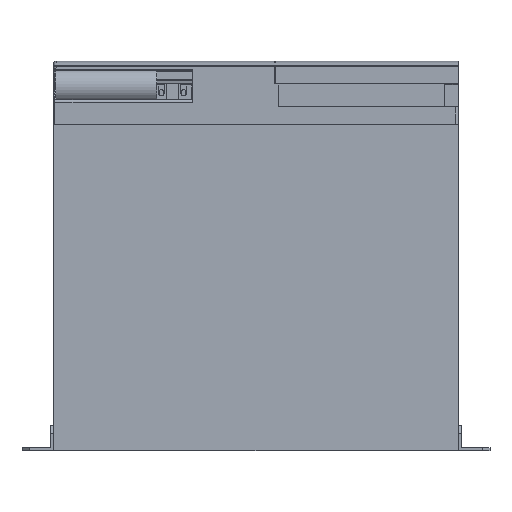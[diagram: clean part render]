
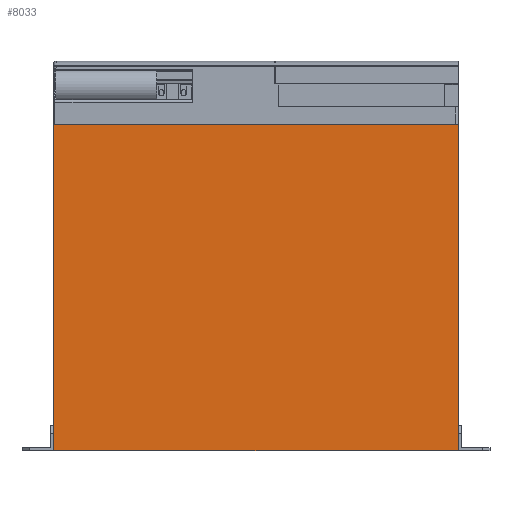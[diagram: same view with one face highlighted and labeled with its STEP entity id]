
A CAD part, left-side view. The second image highlights one B-rep face of the part: STEP entity #8033.
In plain terms, the highlighted planar face has unit normal (-1, 0, 0).
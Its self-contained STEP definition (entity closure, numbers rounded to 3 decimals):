
#8033=ADVANCED_FACE('',(#14568),#14567,.F.);
#14567=PLANE('',#51581);
#14568=FACE_OUTER_BOUND('',#51582,.T.);
#51578=CARTESIAN_POINT('',(-55.,-10.,-11.));
#51579=DIRECTION('',(1.,0.,0.));
#51580=DIRECTION('',(0.,0.,-1.));
#51581=AXIS2_PLACEMENT_3D('',#51578,#51579,#51580);
#51582=EDGE_LOOP('',(#71392,#71393,#71394,#71395));
#71392=ORIENTED_EDGE('',*,*,#91408,.T.);
#71393=ORIENTED_EDGE('',*,*,#91411,.F.);
#71394=ORIENTED_EDGE('',*,*,#91409,.F.);
#71395=ORIENTED_EDGE('',*,*,#91389,.T.);
#91389=EDGE_CURVE('',#104698,#104691,#104699,.T.);
#91408=EDGE_CURVE('',#104691,#104815,#104822,.T.);
#91409=EDGE_CURVE('',#104698,#104828,#104829,.T.);
#91411=EDGE_CURVE('',#104828,#104815,#104841,.T.);
#104691=VERTEX_POINT('',#173107);
#104698=VERTEX_POINT('',#173111);
#104699=LINE('',#173112,#173113);
#104815=VERTEX_POINT('',#173174);
#104822=LINE('',#173178,#173179);
#104828=VERTEX_POINT('',#173181);
#104829=LINE('',#173182,#173183);
#104841=LINE('',#173188,#173189);
#173107=CARTESIAN_POINT('',(-55.,160.,-150.));
#173111=CARTESIAN_POINT('',(-55.,160.,-21.));
#173112=CARTESIAN_POINT('',(-55.,160.,-21.));
#173113=VECTOR('',#173114,129.);
#173114=DIRECTION('',(0.,0.,-1.));
#173174=CARTESIAN_POINT('',(-55.,0.,-150.));
#173178=CARTESIAN_POINT('',(-55.,160.,-150.));
#173179=VECTOR('',#173180,160.);
#173180=DIRECTION('',(0.,-1.,0.));
#173181=CARTESIAN_POINT('',(-55.,0.,-21.));
#173182=CARTESIAN_POINT('',(-55.,160.,-21.));
#173183=VECTOR('',#173184,160.);
#173184=DIRECTION('',(0.,-1.,0.));
#173188=CARTESIAN_POINT('',(-55.,0.,-21.));
#173189=VECTOR('',#173190,129.);
#173190=DIRECTION('',(0.,0.,-1.));
